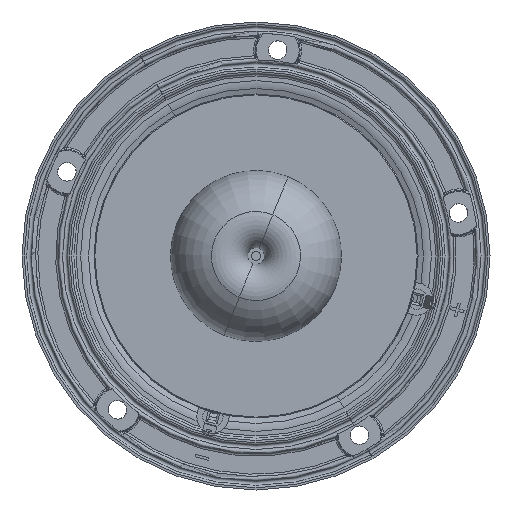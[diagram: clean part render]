
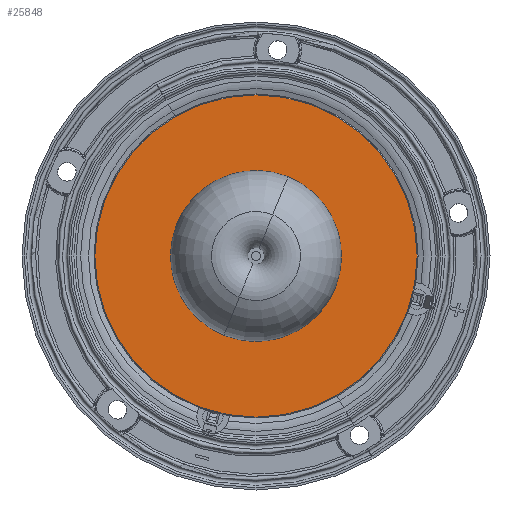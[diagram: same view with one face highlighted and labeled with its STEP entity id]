
A CAD part, front view. The second image highlights one B-rep face of the part: STEP entity #25848.
In plain terms, the highlighted planar face has unit normal (0, -1, 0).
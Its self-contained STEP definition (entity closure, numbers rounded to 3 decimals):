
#423 = VERTEX_POINT ( 'NONE', #34938 ) ;
#847 = CIRCLE ( 'NONE', #25021, 18.999 ) ;
#1936 = EDGE_CURVE ( 'NONE', #36949, #423, #3951, .T. ) ;
#2143 = VERTEX_POINT ( 'NONE', #27299 ) ;
#2166 = AXIS2_PLACEMENT_3D ( 'NONE', #17924, #15227, #32646 ) ;
#2809 = FACE_OUTER_BOUND ( 'NONE', #20925, .T. ) ;
#3951 = CIRCLE ( 'NONE', #2166, 35.8 ) ;
#4550 = DIRECTION ( 'NONE',  ( -0.375, 0., -0.927 ) ) ;
#6838 = DIRECTION ( 'NONE',  ( 0., -1., 0. ) ) ;
#7561 = CARTESIAN_POINT ( 'NONE',  ( 4.381, -37.355, 0. ) ) ;
#9688 = AXIS2_PLACEMENT_3D ( 'NONE', #21307, #36177, #12939 ) ;
#9875 = CARTESIAN_POINT ( 'NONE',  ( 4.381, -37.355, 0. ) ) ;
#10072 = AXIS2_PLACEMENT_3D ( 'NONE', #9875, #6838, #33532 ) ;
#10830 = EDGE_CURVE ( 'NONE', #423, #36949, #21592, .T. ) ;
#11037 = ORIENTED_EDGE ( 'NONE', *, *, #22487, .F. ) ;
#12939 = DIRECTION ( 'NONE',  ( -0.375, 0., -0.927 ) ) ;
#15227 = DIRECTION ( 'NONE',  ( 0., -1., 0. ) ) ;
#17924 = CARTESIAN_POINT ( 'NONE',  ( 4.381, -37.355, 0. ) ) ;
#17997 = ORIENTED_EDGE ( 'NONE', *, *, #10830, .T. ) ;
#18061 = PLANE ( 'NONE',  #19835 ) ;
#18622 = CARTESIAN_POINT ( 'NONE',  ( 22.743, -37.355, 0. ) ) ;
#19165 = DIRECTION ( 'NONE',  ( 0., -1., 0. ) ) ;
#19454 = CARTESIAN_POINT ( 'NONE',  ( 11.515, -37.355, 17.609 ) ) ;
#19835 = AXIS2_PLACEMENT_3D ( 'NONE', #18622, #24282, #35592 ) ;
#19930 = EDGE_LOOP ( 'NONE', ( #11037, #34699 ) ) ;
#20925 = EDGE_LOOP ( 'NONE', ( #17997, #23300 ) ) ;
#21307 = CARTESIAN_POINT ( 'NONE',  ( 4.381, -37.355, 0. ) ) ;
#21592 = CIRCLE ( 'NONE', #10072, 35.8 ) ;
#22487 = EDGE_CURVE ( 'NONE', #2143, #22967, #847, .T. ) ;
#22967 = VERTEX_POINT ( 'NONE', #19454 ) ;
#23300 = ORIENTED_EDGE ( 'NONE', *, *, #1936, .T. ) ;
#24282 = DIRECTION ( 'NONE',  ( 0., 1., 0. ) ) ;
#25021 = AXIS2_PLACEMENT_3D ( 'NONE', #7561, #19165, #4550 ) ;
#25848 = ADVANCED_FACE ( 'NONE', ( #34383, #2809 ), #18061, .F. ) ;
#27299 = CARTESIAN_POINT ( 'NONE',  ( -2.753, -37.355, -17.609 ) ) ;
#28456 = CIRCLE ( 'NONE', #9688, 18.999 ) ;
#28741 = EDGE_CURVE ( 'NONE', #22967, #2143, #28456, .T. ) ;
#31359 = CARTESIAN_POINT ( 'NONE',  ( 4.381, -37.355, -35.8 ) ) ;
#32646 = DIRECTION ( 'NONE',  ( 0., 0., 1. ) ) ;
#33532 = DIRECTION ( 'NONE',  ( 0., 0., 1. ) ) ;
#34383 = FACE_BOUND ( 'NONE', #19930, .T. ) ;
#34699 = ORIENTED_EDGE ( 'NONE', *, *, #28741, .F. ) ;
#34938 = CARTESIAN_POINT ( 'NONE',  ( 4.381, -37.355, 35.8 ) ) ;
#35592 = DIRECTION ( 'NONE',  ( 0., 0., 1. ) ) ;
#36177 = DIRECTION ( 'NONE',  ( 0., -1., 0. ) ) ;
#36949 = VERTEX_POINT ( 'NONE', #31359 ) ;
